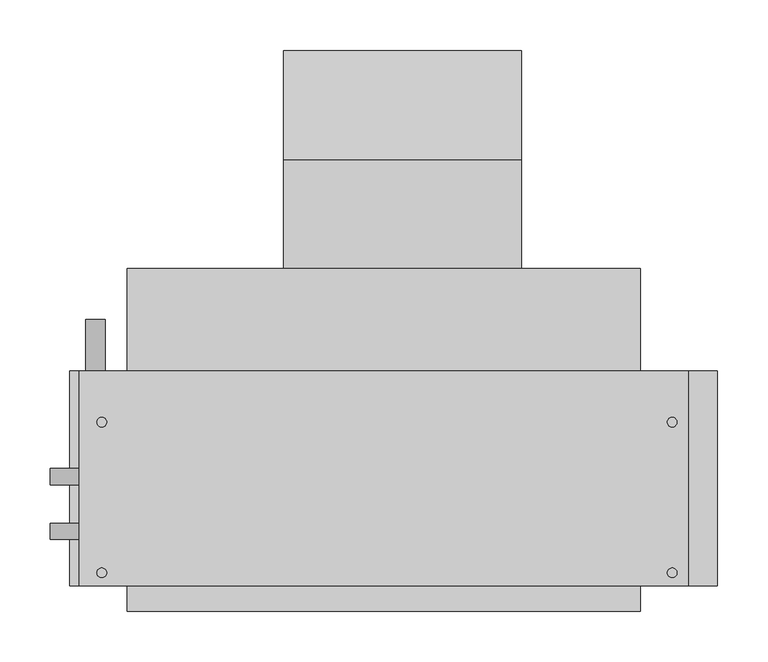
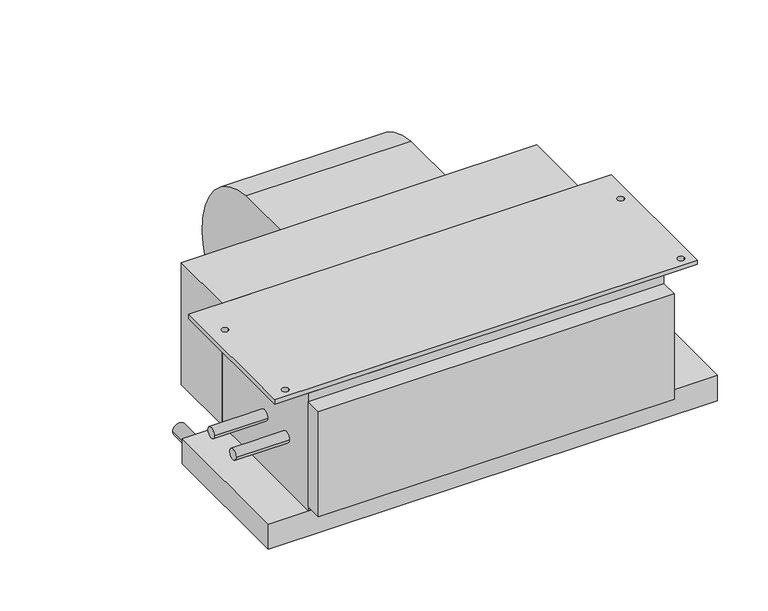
"""IFC4 building model written with IfcOpenShell, lengths in millimetres: proxy geometry, Concealed_Horizontal_Fan_Coil_Unit_-_42CAA_-_CARRIER_-_2-Pipe_Cool-EHeat_LH_2022 : Size 03 - 277v/60Hz/1Ph - 4 Row 3.0kW."""

from ifc_helpers import new_model, si_unit, point, frame, frame_2d, origin, place, context, project, spatial, polyline, circle_curve, trimmed, segment, composite_curve, outline, extrude, source, transform, mapped, element, save


def mechanical_equipment_aa275e35(model_context):
    return source(origin(), model_context, "Body", "SweptSolid", [
        extrude(outline(composite_curve([segment(trimmed(circle_curve(frame_2d((68.401169, -136.0299844)), 117.3559541), [point((77.7875, -19.05))], [point((185.7375, -138.176))], False, "CARTESIAN"), True, "CONTINUOUS"), segment(trimmed(circle_curve(frame_2d((90.0022663, -136.4250563)), 95.7512443), [point((185.7375, -138.176))], [point((77.7875, -231.394))], False, "CARTESIAN"), True, "CONTINUOUS"), segment(trimmed(circle_curve(frame_2d((89.9711869, -136.6666968)), 95.5076133), [point((77.7875, -231.394))], [point((-5.5245, -138.176))], False, "CARTESIAN"), True, "CONTINUOUS"), segment(trimmed(circle_curve(frame_2d((-24.6059828, -138.4775816)), 19.0838659), [point((-5.5245, -138.176))], [point((-17.7963373, -120.65))], True, "CARTESIAN"), True, "CONTINUOUS"), segment(polyline([(-17.7963373, -120.65), (-30.1625, -120.65), (-30.1625, -19.05), (77.7875, -19.05)]), True, "CONTINUOUS")], self_intersect=False)), frame((53.213, 0.0, 0.0), z_axis=(1.0, 0.0, 0.0), x_axis=(0.0, 1.0, 0.0)), (0.0, 0.0, 1.0), 235.712),
        extrude(outline(polyline([(454.025, -131.7625), (454.025, -344.4875), (-149.225, -344.4875), (-149.225, -131.7625), (454.025, -131.7625)]), holes=[composite_curve([segment(trimmed(circle_curve(frame_2d((-127.0, -182.5625)), 4.7625), [point((-131.7625, -182.5625))], [point((-122.2375, -182.5625))], True, "CARTESIAN"), True, "CONTINUOUS"), segment(trimmed(circle_curve(frame_2d((-127.0, -182.5625)), 4.7625), [point((-122.2375, -182.5625))], [point((-131.7625, -182.5625))], True, "CARTESIAN"), True, "CONTINUOUS")], self_intersect=False), composite_curve([segment(trimmed(circle_curve(frame_2d((-127.0, -331.7875)), 4.7625), [point((-131.7625, -331.7875))], [point((-122.2375, -331.7875))], True, "CARTESIAN"), True, "CONTINUOUS"), segment(trimmed(circle_curve(frame_2d((-127.0, -331.7875)), 4.7625), [point((-122.2375, -331.7875))], [point((-131.7625, -331.7875))], True, "CARTESIAN"), True, "CONTINUOUS")], self_intersect=False), composite_curve([segment(trimmed(circle_curve(frame_2d((438.15, -182.5625)), 4.7625), [point((433.3875, -182.5625))], [point((442.9125, -182.5625))], True, "CARTESIAN"), True, "CONTINUOUS"), segment(trimmed(circle_curve(frame_2d((438.15, -182.5625)), 4.7625), [point((442.9125, -182.5625))], [point((433.3875, -182.5625))], True, "CARTESIAN"), True, "CONTINUOUS")], self_intersect=False), composite_curve([segment(trimmed(circle_curve(frame_2d((438.15, -331.7875)), 4.7625), [point((433.3875, -331.7875))], [point((442.9125, -331.7875))], True, "CARTESIAN"), True, "CONTINUOUS"), segment(trimmed(circle_curve(frame_2d((438.15, -331.7875)), 4.7625), [point((442.9125, -331.7875))], [point((433.3875, -331.7875))], True, "CARTESIAN"), True, "CONTINUOUS")], self_intersect=False)]), frame((0.0, 0.0, -6.35), z_axis=(0.0, 0.0, 1.0), x_axis=(1.0, 0.0, 0.0)), (0.0, 0.0, 1.0), 6.35),
        extrude(outline(polyline([(-101.6, -30.1625), (406.4, -30.1625), (406.4, -131.7625), (-101.6, -131.7625), (-101.6, -30.1625)])), frame((0.0, 0.0, -184.15), z_axis=(0.0, 0.0, 1.0), x_axis=(1.0, 0.0, 0.0)), (0.0, 0.0, 1.0), 184.15),
        extrude(outline(composite_curve([segment(trimmed(circle_curve(frame_2d((-209.55, -133.35)), 9.525), [point((-209.55, -142.875))], [point((-209.55, -123.825))], False, "CARTESIAN"), True, "CONTINUOUS"), segment(trimmed(circle_curve(frame_2d((-209.55, -133.35)), 9.525), [point((-209.55, -123.825))], [point((-209.55, -142.875))], False, "CARTESIAN"), True, "CONTINUOUS")], self_intersect=False)), frame((0.0, -131.7625, 0.0), z_axis=(0.0, 1.0, 0.0), x_axis=(0.0, 0.0, 1.0)), (0.0, 0.0, 1.0), 50.8),
        extrude(outline(polyline([(406.4, -369.8875), (-101.6, -369.8875), (-101.6, -344.4875), (406.4, -344.4875), (406.4, -369.8875)])), frame((0.0, 0.0, -177.8), z_axis=(0.0, 0.0, 1.0), x_axis=(1.0, 0.0, 0.0)), (0.0, 0.0, 1.0), 158.75),
        extrude(outline(polyline([(482.6, -131.7625), (482.6, -344.4875), (-158.75, -344.4875), (-158.75, -131.7625), (482.6, -131.7625)])), frame((0.0, 0.0, -222.25), z_axis=(0.0, 0.0, 1.0), x_axis=(1.0, 0.0, 0.0)), (0.0, 0.0, 1.0), 38.1),
        extrude(outline(composite_curve([segment(trimmed(circle_curve(frame_2d((-290.5125, -104.775)), 7.9375), [point((-282.575, -104.775))], [point((-298.45, -104.775))], False, "CARTESIAN"), True, "CONTINUOUS"), segment(trimmed(circle_curve(frame_2d((-290.5125, -104.775)), 7.9375), [point((-298.45, -104.775))], [point((-282.575, -104.775))], False, "CARTESIAN"), True, "CONTINUOUS")], self_intersect=False)), frame((-177.8, 0.0, 0.0), z_axis=(1.0, 0.0, 0.0), x_axis=(0.0, 1.0, 0.0)), (0.0, 0.0, 1.0), 76.2),
        extrude(outline(composite_curve([segment(trimmed(circle_curve(frame_2d((-236.5375, -104.775)), 7.9375), [point((-228.6, -104.775))], [point((-244.475, -104.775))], False, "CARTESIAN"), True, "CONTINUOUS"), segment(trimmed(circle_curve(frame_2d((-236.5375, -104.775)), 7.9375), [point((-244.475, -104.775))], [point((-228.6, -104.775))], False, "CARTESIAN"), True, "CONTINUOUS")], self_intersect=False)), frame((-177.8, 0.0, 0.0), z_axis=(1.0, 0.0, 0.0), x_axis=(0.0, 1.0, 0.0)), (0.0, 0.0, 1.0), 76.2),
        extrude(outline(polyline([(406.4, -344.4875), (-101.6, -344.4875), (-101.6, -131.7625), (406.4, -131.7625), (406.4, -344.4875)])), frame((0.0, 0.0, -184.15), z_axis=(0.0, 0.0, 1.0), x_axis=(1.0, 0.0, 0.0)), (0.0, 0.0, 1.0), 177.8),
    ])


if __name__ == "__main__":
    model = new_model("IFC4")
    model_context = context("Model", 3, world=origin())
    ifc_project = project(units=[si_unit("LENGTHUNIT", "METRE", prefix="MILLI")], contexts=[model_context])
    site = spatial("IfcSite", under=ifc_project)
    building = spatial("IfcBuilding", under=site)
    placement = place(None, origin())
    mechanical_equipment_shape = mechanical_equipment_aa275e35(model_context)
    element("IfcBuildingElementProxy", 1, Name="Concealed_Horizontal_Fan_Coil_Unit_-_42CAA_-_CARRIER_-_2-Pipe_Cool-EHeat_LH_2022 : Size 03 - 277v/60Hz/1Ph - 4 Row 3.0kW", ObjectType="Concealed_Horizontal_Fan_Coil_Unit_-_42CAA_-_CARRIER_-_2-Pipe_Cool-EHeat_LH_2022 : Size 03 - 277v/60Hz/1Ph - 4 Row 3.0kW", at=placement, inside=building, context=model_context, shape_type="MappedRepresentation", body=[
        mapped(mechanical_equipment_shape, transform((0.0, 0.0, 0.0), x_axis=(1.0, 0.0, 0.0), y_axis=(0.0, 1.0, 0.0), z_axis=(0.0, 0.0, 1.0))),
    ])
    save(model, "model.ifc")
